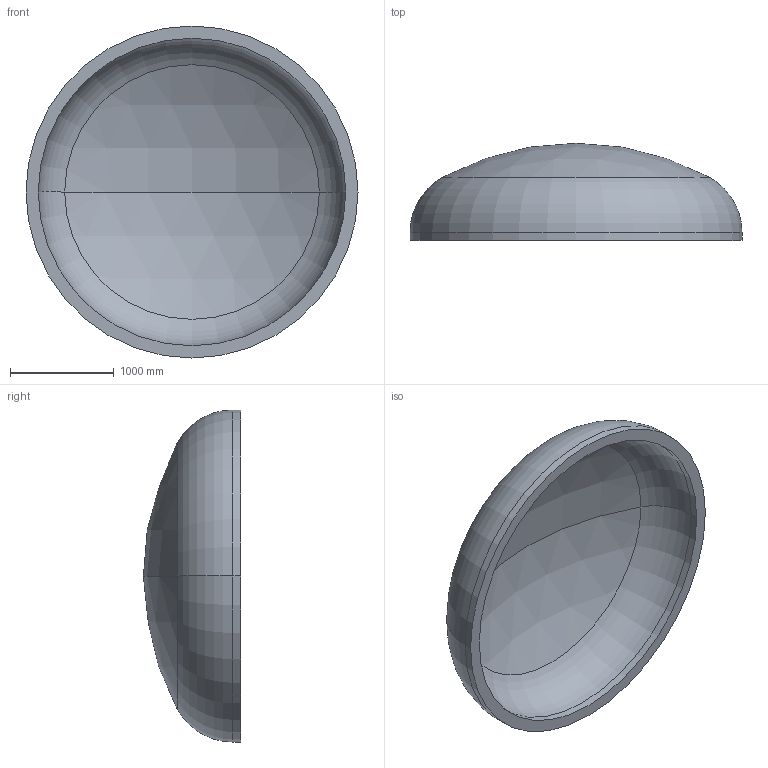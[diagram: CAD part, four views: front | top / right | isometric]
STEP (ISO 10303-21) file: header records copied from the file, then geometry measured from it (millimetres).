
FILE_DESCRIPTION (( 'STEP AP203' ), '1' );
FILE_NAME ('DIN 28013 Korbbogenform_-_Boden DIN 28013 - 3200 x 75 - I - s=118.step', '2016-07-01T19:04:05', ( '' ), ( '' ), 'SwSTEP 2.0', 'SolidWorks 2013', '' );
FILE_SCHEMA (( 'CONFIG_CONTROL_DESIGN' ));
Length unit declared in the file: millimetre
Products named in the file (1): DIN 28013 Korbbogenform_-_Boden DIN 28013 - 3200 x 75 - I - s=118
Bounding box: 3200 x 936.18 x 3200 mm (x, y, z)
Volume: 1337140801.1 mm3; surface area: 23835080.3 mm2
Topology: 1 solids, 1 shells, 13 faces, 24 edges, 14 vertices
Faces by surface type: torus 4, cylinder 4, sphere 4, plane 1
Entity records: 407 total; most frequent: DIRECTION 72, CARTESIAN_POINT 52, ORIENTED_EDGE 48, AXIS2_PLACEMENT_3D 34, EDGE_CURVE 24, CIRCLE 20, EDGE_LOOP 14, VERTEX_POINT 14
